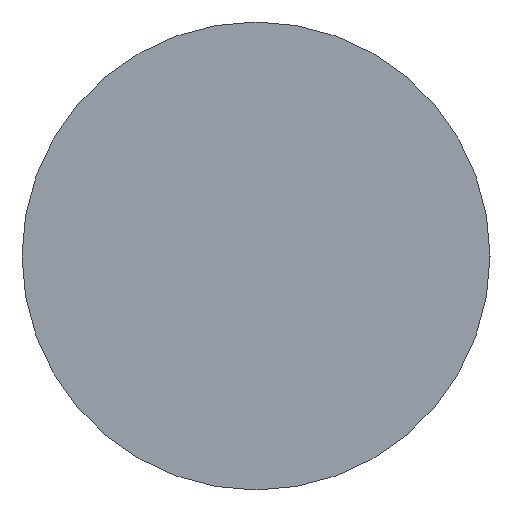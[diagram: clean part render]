
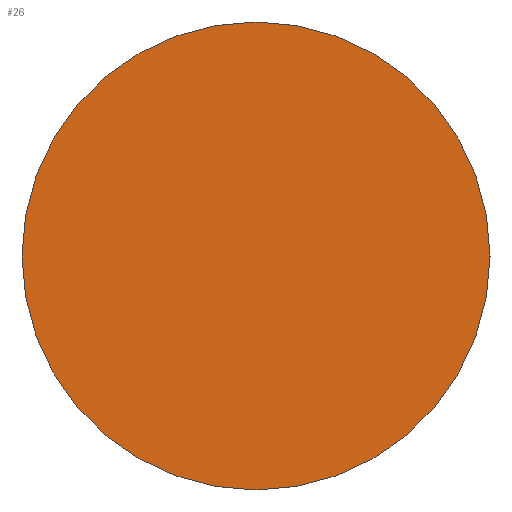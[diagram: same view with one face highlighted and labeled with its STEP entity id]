
A CAD part, left-side view. The second image highlights one B-rep face of the part: STEP entity #26.
In plain terms, the highlighted planar face has unit normal (-1, 0, 0).
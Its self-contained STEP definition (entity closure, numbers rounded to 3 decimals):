
#5 = CARTESIAN_POINT ( 'NONE',  ( 0., 0., -0.9 ) ) ;
#19 = VERTEX_POINT ( 'NONE', #5 ) ;
#26 = ADVANCED_FACE ( 'NONE', ( #242 ), #229, .F. ) ;
#31 = CARTESIAN_POINT ( 'NONE',  ( 0., 0., 0. ) ) ;
#42 = ORIENTED_EDGE ( 'NONE', *, *, #71, .T. ) ;
#51 = CARTESIAN_POINT ( 'NONE',  ( 0., 0., 0.9 ) ) ;
#69 = DIRECTION ( 'NONE',  ( 0., 0., 1. ) ) ;
#71 = EDGE_CURVE ( 'NONE', #19, #106, #256, .T. ) ;
#73 = DIRECTION ( 'NONE',  ( -1., 0., 0. ) ) ;
#85 = CARTESIAN_POINT ( 'NONE',  ( 0., 0., 0. ) ) ;
#87 = DIRECTION ( 'NONE',  ( 0., 0., 1. ) ) ;
#88 = DIRECTION ( 'NONE',  ( -1., 0., 0. ) ) ;
#92 = CARTESIAN_POINT ( 'NONE',  ( 0., 0., 0. ) ) ;
#106 = VERTEX_POINT ( 'NONE', #51 ) ;
#108 = CIRCLE ( 'NONE', #146, 0.9 ) ;
#128 = DIRECTION ( 'NONE',  ( 1., 0., 0. ) ) ;
#130 = AXIS2_PLACEMENT_3D ( 'NONE', #31, #128, #154 ) ;
#146 = AXIS2_PLACEMENT_3D ( 'NONE', #85, #88, #87 ) ;
#154 = DIRECTION ( 'NONE',  ( 0., 0., -1. ) ) ;
#179 = EDGE_LOOP ( 'NONE', ( #193, #42 ) ) ;
#193 = ORIENTED_EDGE ( 'NONE', *, *, #278, .T. ) ;
#229 = PLANE ( 'NONE',  #130 ) ;
#242 = FACE_OUTER_BOUND ( 'NONE', #179, .T. ) ;
#256 = CIRCLE ( 'NONE', #279, 0.9 ) ;
#278 = EDGE_CURVE ( 'NONE', #106, #19, #108, .T. ) ;
#279 = AXIS2_PLACEMENT_3D ( 'NONE', #92, #73, #69 ) ;
